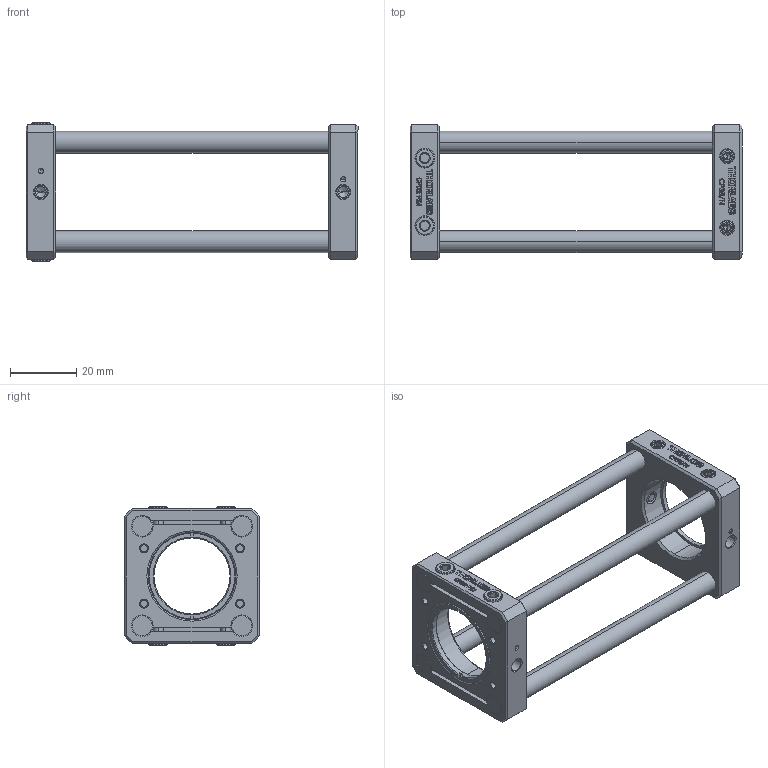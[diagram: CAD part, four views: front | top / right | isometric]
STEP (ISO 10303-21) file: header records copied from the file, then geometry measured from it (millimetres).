
FILE_DESCRIPTION (( 'STEP AP214' ), '1' );
FILE_NAME ('Baugruppe_Laser_mounting214.STEP', '2022-10-28T09:24:38', ( '' ), ( '' ), 'SwSTEP 2.0', 'SolidWorks 2022', '' );
FILE_SCHEMA (( 'AUTOMOTIVE_DESIGN' ));
Length unit declared in the file: millimetre
Products named in the file (4): CP08FP_M-Step; stange; CP35_M-Step; Baugruppe_Laser_mounting214
Assembly tree (6 placements, depth 2):
  Baugruppe_Laser_mounting214
    CP08FP_M-Step
    stange  x4
    CP35_M-Step
Bounding box: 100 x 40.64 x 41.81 mm (x, y, z)
Volume: 30086.3 mm3; surface area: 21367.3 mm2
Topology: 16 solids, 16 shells, 1073 faces, 2629 edges, 1646 vertices
Faces by surface type: plane 503, bspline 212, cone 204, cylinder 138, torus 16
Entity records: 36587 total; most frequent: CARTESIAN_POINT 12913, ORIENTED_EDGE 5110, DIRECTION 4189, EDGE_CURVE 2555, VERTEX_POINT 1622, VECTOR 1549, LINE 1549, AXIS2_PLACEMENT_3D 1320
